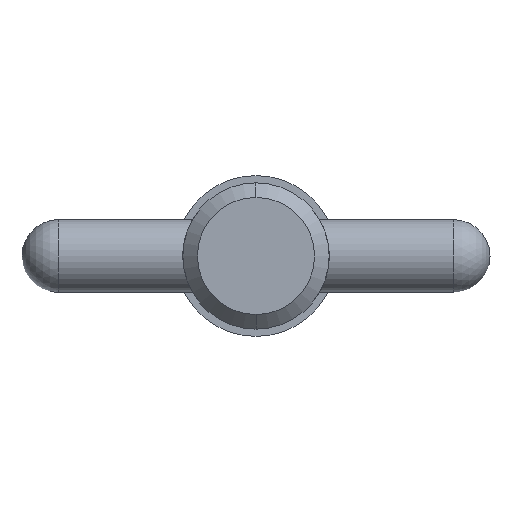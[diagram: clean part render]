
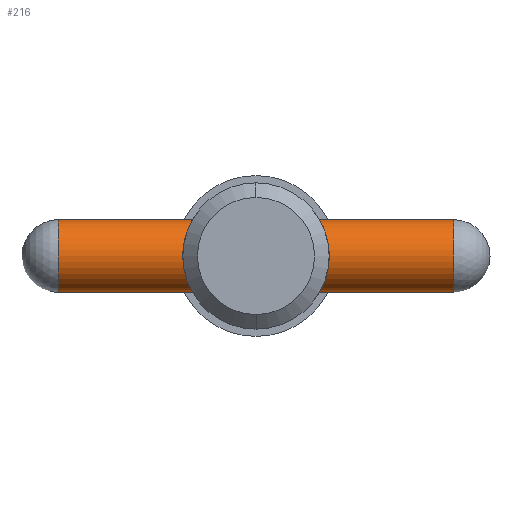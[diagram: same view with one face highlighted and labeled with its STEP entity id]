
A CAD part, left-side view. The second image highlights one B-rep face of the part: STEP entity #216.
In plain terms, the highlighted cylindrical face has radius 1.98 mm (diameter 3.96 mm), a partial arc.
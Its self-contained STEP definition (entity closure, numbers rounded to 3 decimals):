
#35 = ORIENTED_EDGE ( 'NONE', *, *, #137, .T. ) ;
#49 = FACE_OUTER_BOUND ( 'NONE', #165, .T. ) ;
#76 = EDGE_CURVE ( 'NONE', #507, #193, #789, .T. ) ;
#90 = CARTESIAN_POINT ( 'NONE',  ( 0., 12.7, 1.98 ) ) ;
#126 = CARTESIAN_POINT ( 'NONE',  ( 0., 12.7, 0. ) ) ;
#128 = ORIENTED_EDGE ( 'NONE', *, *, #168, .T. ) ;
#137 = EDGE_CURVE ( 'NONE', #820, #943, #1014, .T. ) ;
#165 = EDGE_LOOP ( 'NONE', ( #582, #128, #35, #712 ) ) ;
#168 = EDGE_CURVE ( 'NONE', #507, #820, #839, .T. ) ;
#193 = VERTEX_POINT ( 'NONE', #201 ) ;
#201 = CARTESIAN_POINT ( 'NONE',  ( 0., -10.72, 1.98 ) ) ;
#216 = ADVANCED_FACE ( 'NONE', ( #49 ), #997, .T. ) ;
#244 = DIRECTION ( 'NONE',  ( 0., 0., -1. ) ) ;
#257 = CIRCLE ( 'NONE', #890, 1.98 ) ;
#273 = CARTESIAN_POINT ( 'NONE',  ( 0., 10.72, 1.98 ) ) ;
#287 = DIRECTION ( 'NONE',  ( 0., 0., -1. ) ) ;
#298 = VECTOR ( 'NONE', #849, 1000. ) ;
#363 = CARTESIAN_POINT ( 'NONE',  ( 0., 12.7, -1.98 ) ) ;
#374 = EDGE_CURVE ( 'NONE', #943, #193, #257, .T. ) ;
#387 = CARTESIAN_POINT ( 'NONE',  ( 0., -10.72, -1.98 ) ) ;
#401 = AXIS2_PLACEMENT_3D ( 'NONE', #520, #515, #674 ) ;
#507 = VERTEX_POINT ( 'NONE', #273 ) ;
#515 = DIRECTION ( 'NONE',  ( 0., -1., 0. ) ) ;
#520 = CARTESIAN_POINT ( 'NONE',  ( 0., 10.72, 0. ) ) ;
#582 = ORIENTED_EDGE ( 'NONE', *, *, #76, .F. ) ;
#674 = DIRECTION ( 'NONE',  ( 0., 0., -1. ) ) ;
#712 = ORIENTED_EDGE ( 'NONE', *, *, #374, .T. ) ;
#755 = CARTESIAN_POINT ( 'NONE',  ( 0., -10.72, 0. ) ) ;
#760 = DIRECTION ( 'NONE',  ( 0., -1., 0. ) ) ;
#789 = LINE ( 'NONE', #90, #924 ) ;
#820 = VERTEX_POINT ( 'NONE', #848 ) ;
#839 = CIRCLE ( 'NONE', #401, 1.98 ) ;
#848 = CARTESIAN_POINT ( 'NONE',  ( 0., 10.72, -1.98 ) ) ;
#849 = DIRECTION ( 'NONE',  ( 0., -1., 0. ) ) ;
#890 = AXIS2_PLACEMENT_3D ( 'NONE', #755, #951, #244 ) ;
#907 = DIRECTION ( 'NONE',  ( 0., -1., 0. ) ) ;
#924 = VECTOR ( 'NONE', #907, 1000. ) ;
#939 = AXIS2_PLACEMENT_3D ( 'NONE', #126, #760, #287 ) ;
#943 = VERTEX_POINT ( 'NONE', #387 ) ;
#951 = DIRECTION ( 'NONE',  ( 0., 1., 0. ) ) ;
#997 = CYLINDRICAL_SURFACE ( 'NONE', #939, 1.98 ) ;
#1014 = LINE ( 'NONE', #363, #298 ) ;
